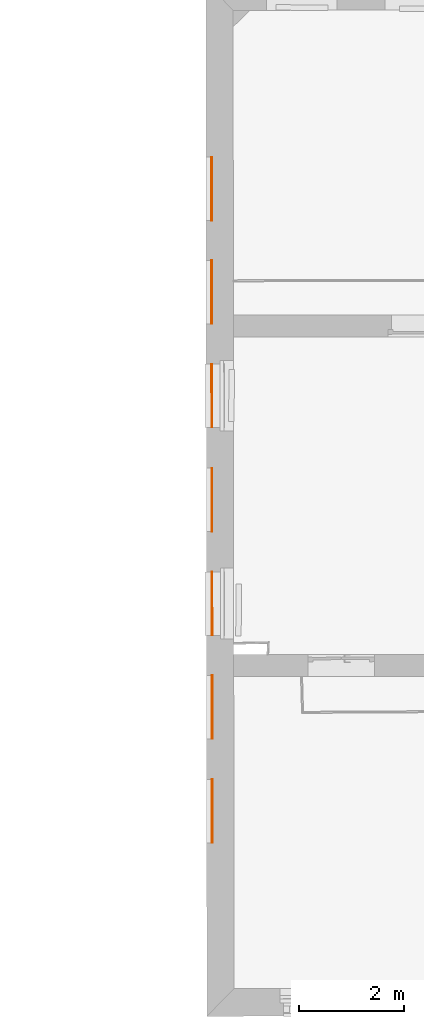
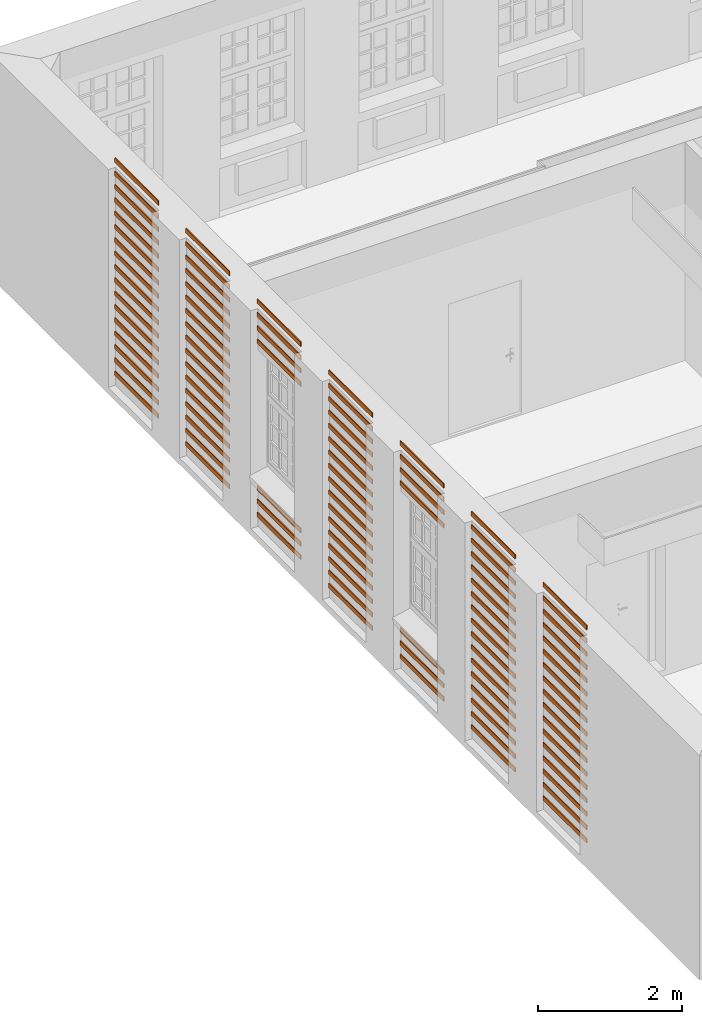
# One storey, part 138 of 158: 99 proxies.
"""IFC2X3 building model written with IfcOpenShell, lengths in metres."""

import ifcopenshell
import ifcopenshell.guid

model = None  # the IFC model being written
_history = None  # IfcOwnerHistory: only IFC2X3 demands one
_inside = {}  # id of a spatial element -> (the spatial element, [elements in it])
_under = {}  # id of a project, library or spatial element -> (it, [spatial elements below it])
_declared = {}  # id of a project -> (the project, [libraries it declares])
_typed = {}  # id of a type object -> (the type object, [elements of that type])
_made_of = {}  # id of a material, layer set ... -> (it, [elements and type objects made of it])


def new_model(schema):
    """Start an empty IFC model of exactly this schema.

    Asked for "IFC4X3", IfcOpenShell would pick the latest addendum, in which some entities
    have other attributes; the version numbers below select the first issue.
    IFC2X3 requires an IfcOwnerHistory on every rooted entity: one is made here for all.
    """
    global model, _history
    if schema == "IFC4X3":
        model = ifcopenshell.file(schema_version=(4, 3, 0, 0))
    else:
        model = ifcopenshell.file(schema=schema)
    _inside.clear()
    _under.clear()
    _declared.clear()
    _typed.clear()
    _made_of.clear()
    _history = None
    if model.schema == "IFC2X3":
        org = make("IfcOrganization", Name="unknown")
        user = make(
            "IfcPersonAndOrganization",
            ThePerson=make("IfcPerson", FamilyName="unknown"),
            TheOrganization=org,
        )
        app = make(
            "IfcApplication",
            ApplicationDeveloper=org,
            Version="unknown",
            ApplicationFullName="unknown",
            ApplicationIdentifier="unknown",
        )
        _history = make(
            "IfcOwnerHistory",
            OwningUser=user,
            OwningApplication=app,
            ChangeAction="ADDED",
            CreationDate=0,
        )
    return model


def make(cls, **values):
    """One entity of the class cls with the attributes given. An attribute that is None is left unset."""
    return model.create_entity(
        cls, **{name: value for name, value in values.items() if value is not None}
    )


def entity(cls, *values):
    """Any entity or typed value of the class cls, its attributes in the order of the schema. None: left unset."""
    e = model.create_entity(cls)
    for i, value in enumerate(values):
        if value is not None:
            e[i] = value
    return e


def rooted(cls, **values):
    """An entity with a GlobalId (a new one), such as an element, a storey or a relation."""
    return make(cls, GlobalId=ifcopenshell.guid.new(), OwnerHistory=_history, **values)


def si_unit(unit_type, name, prefix=None):
    """IfcSIUnit, for example si_unit("LENGTHUNIT", "METRE", prefix="MILLI")."""
    return make("IfcSIUnit", UnitType=unit_type, Prefix=prefix, Name=name)


def converted_unit(unit_type, name, factor, base, dimensions=None, offset=None):
    """IfcConversionBasedUnit, such as the inch: factor (a typed value) times the base unit."""
    return make(
        "IfcConversionBasedUnit"
        if offset is None
        else "IfcConversionBasedUnitWithOffset",
        ConversionOffset=offset,
        Dimensions=None
        if dimensions is None
        else entity("IfcDimensionalExponents", *dimensions),
        UnitType=unit_type,
        Name=name,
        ConversionFactor=make(
            "IfcMeasureWithUnit", ValueComponent=factor, UnitComponent=base
        ),
    )


def derived_unit(unit_type, elements):
    """IfcDerivedUnit: a product of units, each with its exponent."""
    return make(
        "IfcDerivedUnit",
        Elements=[
            make("IfcDerivedUnitElement", Unit=unit, Exponent=power)
            for unit, power in elements
        ],
        UnitType=unit_type,
    )


def money_unit(currency):
    """IfcMonetaryUnit."""
    return make("IfcMonetaryUnit", Currency=currency)


def assignment(units):
    """IfcUnitAssignment: the units of a project."""
    return None if units is None else make("IfcUnitAssignment", Units=units)


def point(xyz):
    """IfcCartesianPoint."""
    return None if xyz is None else make("IfcCartesianPoint", Coordinates=xyz)


def direction(xyz):
    """IfcDirection."""
    return None if xyz is None else make("IfcDirection", DirectionRatios=xyz)


def frame(location, z_axis=None, x_axis=None):
    """IfcAxis2Placement3D, a coordinate frame: its origin and axes. An axis left out is left unset."""
    return make(
        "IfcAxis2Placement3D",
        Location=point(location),
        Axis=direction(z_axis),
        RefDirection=direction(x_axis),
    )


def origin_with_axes():
    """The frame at (0, 0, 0) with the z axis (0, 0, 1) and the x axis (1, 0, 0) written out."""
    return frame((0.0, 0.0, 0.0), z_axis=(0.0, 0.0, 1.0), x_axis=(1.0, 0.0, 0.0))


def place(relative_to, where):
    """IfcLocalPlacement: puts the frame where relative to a parent placement (None: the world)."""
    return make(
        "IfcLocalPlacement", PlacementRelTo=relative_to, RelativePlacement=where
    )


def context(
    kind, dimensions, precision=None, world=None, true_north=None, identifier=None
):
    """IfcGeometricRepresentationContext, for example the 3D "Model" context."""
    return make(
        "IfcGeometricRepresentationContext",
        ContextIdentifier=identifier,
        ContextType=kind,
        CoordinateSpaceDimension=dimensions,
        Precision=precision,
        WorldCoordinateSystem=world,
        TrueNorth=true_north,
    )


def subcontext(parent, identifier, kind, view, scale=None):
    """IfcGeometricRepresentationSubContext, for example "Body" below "Model"."""
    return make(
        "IfcGeometricRepresentationSubContext",
        ContextIdentifier=identifier,
        ContextType=kind,
        ParentContext=parent,
        TargetScale=scale,
        TargetView=view,
    )


def project(units=None, contexts=None):
    """IfcProject with its units and contexts."""
    return rooted(
        "IfcProject",
        Name="project",
        RepresentationContexts=contexts,
        UnitsInContext=assignment(units),
    )


def spatial(cls, under=None, at=None, **own):
    """A site, building, storey or space (cls), placed at a placement, below another one or the project."""
    s = rooted(cls, ObjectPlacement=at, **own)
    if under is not None:
        _under.setdefault(under.id(), (under, []))[1].append(s)
    return s


def faces_of(points, faces, orient=None, outer=None):
    """IfcFace entities. A face is a list of loops; a loop is a list of indices into points, from 0.

    orient and outer hold one flag for each loop. By default every Orientation is true, the
    first loop of a face is its IfcFaceOuterBound and the others are IfcFaceBound.
    """
    made = []
    for i, loops in enumerate(faces):
        bounds = []
        for j, loop in enumerate(loops):
            is_outer = j == 0 if outer is None else outer[i][j]
            bounds.append(
                make(
                    "IfcFaceOuterBound" if is_outer else "IfcFaceBound",
                    Bound=make("IfcPolyLoop", Polygon=[points[k] for k in loop]),
                    Orientation=True if orient is None else orient[i][j],
                )
            )
        made.append(make("IfcFace", Bounds=bounds))
    return made


def faceted_brep(points, faces, orient=None, outer=None, voids=None):
    """IfcFacetedBrep: a solid bounded by flat faces; with voids (closed shells), ...WithVoids."""
    shared = [point(p) for p in points]
    hull = make("IfcClosedShell", CfsFaces=faces_of(shared, faces, orient, outer))
    if voids is None:
        return make("IfcFacetedBrep", Outer=hull)
    return make(
        "IfcFacetedBrepWithVoids",
        Outer=hull,
        Voids=[
            make(cls, CfsFaces=faces_of(shared, fs, o, b)) for cls, fs, o, b in voids
        ],
    )


def shape(context_of_items, identifier, shape_type, items):
    """IfcShapeRepresentation: the items that make up one representation, for example the "Body"."""
    return make(
        "IfcShapeRepresentation",
        ContextOfItems=context_of_items,
        RepresentationIdentifier=identifier,
        RepresentationType=shape_type,
        Items=items,
    )


def source(mapping_origin, context_of_items, identifier, shape_type, items):
    """IfcRepresentationMap: a shape defined once, which mapped items show again and again."""
    return make(
        "IfcRepresentationMap",
        MappingOrigin=mapping_origin,
        MappedRepresentation=shape(context_of_items, identifier, shape_type, items),
    )


def transform(
    local_origin,
    x_axis=None,
    y_axis=None,
    z_axis=None,
    scale=None,
    scale2=None,
    scale3=None,
    uniform=True,
):
    """IfcCartesianTransformationOperator3D, or its non-uniform kind. x_axis, y_axis, z_axis: its Axis1, 2, 3."""
    if uniform:
        return make(
            "IfcCartesianTransformationOperator3D",
            Axis1=direction(x_axis),
            Axis2=direction(y_axis),
            LocalOrigin=point(local_origin),
            Scale=scale,
            Axis3=direction(z_axis),
        )
    return make(
        "IfcCartesianTransformationOperator3DnonUniform",
        Axis1=direction(x_axis),
        Axis2=direction(y_axis),
        LocalOrigin=point(local_origin),
        Scale=scale,
        Axis3=direction(z_axis),
        Scale2=scale2,
        Scale3=scale3,
    )


def mapped(mapping_source, mapping_target):
    """IfcMappedItem: shows the shape of a source again, moved by a transform."""
    return make(
        "IfcMappedItem", MappingSource=mapping_source, MappingTarget=mapping_target
    )


def material(Name=None, Category=None):
    """IfcMaterial."""
    return make("IfcMaterial", Name=Name, Category=Category)


def made_of(thing, what):
    """Note that an element or type object is made of a material, layer set ...; save() writes the relation."""
    if what is not None:
        _made_of.setdefault(what.id(), (what, []))[1].append(thing)
    return thing


def type_object(cls, material=None, **own):
    """A type object (cls), such as IfcWallType, which elements share."""
    return made_of(rooted(cls, **own), material)


def element(
    cls,
    number,
    at=None,
    inside=None,
    cuts=None,
    type_object=None,
    material=None,
    context=None,
    identifier="Body",
    shape_type=None,
    held_by="IfcProductDefinitionShape",
    body=None,
    shapes=None,
    **own,
):
    """One element of the class cls, such as IfcWall. Its Tag is "e" and its number.

    at: its placement. inside: the storey or other place that contains it. cuts: it is an
    opening in that element (IfcRelVoidsElement). A single representation is given by context,
    identifier, shape_type and body (its items); several are given by shapes. held_by: the class
    of the entity that holds the representations. save() writes the other relations.
    """
    e = rooted(cls, Tag="e%d" % number, ObjectPlacement=at, **own)
    if body is not None:
        shapes = [shape(context, identifier, shape_type, body)]
    if shapes is not None:
        e.Representation = make(held_by, Representations=shapes)
    if inside is not None:
        _inside.setdefault(inside.id(), (inside, []))[1].append(e)
    if cuts is not None:
        rooted(
            "IfcRelVoidsElement", RelatingBuildingElement=cuts, RelatedOpeningElement=e
        )
    if type_object is not None:
        _typed.setdefault(type_object.id(), (type_object, []))[1].append(e)
    return made_of(e, material)


def aggregate(whole, parts):
    """IfcRelAggregates: a whole, such as a stair, and the parts it consists of."""
    return rooted("IfcRelAggregates", RelatingObject=whole, RelatedObjects=parts)


def save(model, path):
    """Write the relations noted so far, then the file.

    IfcRelAggregates (storeys below a building ...), IfcRelContainedInSpatialStructure (elements
    in a storey), IfcRelDefinesByType, IfcRelAssociatesMaterial and IfcRelDeclares: one each for
    every whole, place, type object, material and project.
    """
    for whole, parts in _under.values():
        aggregate(whole, parts)
    for where, things in _inside.values():
        rooted(
            "IfcRelContainedInSpatialStructure",
            RelatedElements=things,
            RelatingStructure=where,
        )
    for kind, things in _typed.values():
        rooted("IfcRelDefinesByType", RelatedObjects=things, RelatingType=kind)
    for what, things in _made_of.values():
        rooted("IfcRelAssociatesMaterial", RelatedObjects=things, RelatingMaterial=what)
    for by, libraries in _declared.values():
        rooted("IfcRelDeclares", RelatingContext=by, RelatedDefinitions=libraries)
    model.write(path)


model = new_model("IFC2X3")

# Units and contexts
model_context = context("Model", 3, precision=1e-05, world=origin_with_axes(), true_north=direction((0.0, 1.0)))
body_context = subcontext(model_context, "Body", "Model", "MODEL_VIEW")
ifc_project = project(units=[si_unit("LENGTHUNIT", "METRE"), si_unit("AREAUNIT", "SQUARE_METRE"), si_unit("VOLUMEUNIT", "CUBIC_METRE"), converted_unit("PLANEANGLEUNIT", "DEGREE", entity("IfcPlaneAngleMeasure", 0.0174532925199), si_unit("PLANEANGLEUNIT", "RADIAN"), dimensions=[0, 0, 0, 0, 0, 0, 0]), money_unit("EUR"), converted_unit("TIMEUNIT", "Year", entity("IfcTimeMeasure", 31556926.0), si_unit("TIMEUNIT", "SECOND"), dimensions=[0, 0, 1, 0, 0, 0, 0]), si_unit("MASSUNIT", "GRAM", prefix="KILO"), si_unit("THERMODYNAMICTEMPERATUREUNIT", "DEGREE_CELSIUS"), si_unit("LUMINOUSINTENSITYUNIT", "LUMEN"), si_unit("ENERGYUNIT", "JOULE", prefix="MEGA"), derived_unit("THERMALCONDUCTANCEUNIT", [(si_unit("POWERUNIT", "WATT"), 1), (si_unit("LENGTHUNIT", "METRE"), -1), (si_unit("THERMODYNAMICTEMPERATUREUNIT", "KELVIN"), -1)]), derived_unit("SPECIFICHEATCAPACITYUNIT", [(si_unit("ENERGYUNIT", "JOULE"), 1), (si_unit("MASSUNIT", "GRAM", prefix="KILO"), -1), (si_unit("THERMODYNAMICTEMPERATUREUNIT", "KELVIN"), -1)]), derived_unit("MASSDENSITYUNIT", [(si_unit("MASSUNIT", "GRAM", prefix="KILO"), 1), (si_unit("VOLUMEUNIT", "CUBIC_METRE"), -1)])], contexts=[model_context])

# Site, building, storey
site_placement = place(None, origin_with_axes())
site = spatial("IfcSite", under=ifc_project, at=site_placement, Name="Gelände", CompositionType="ELEMENT")
building_placement = place(site_placement, origin_with_axes())
building = spatial("IfcBuilding", under=site, at=building_placement, Name="Gebäude", CompositionType="ELEMENT")
storey_placement = place(building_placement, origin_with_axes())
storey = spatial("IfcBuildingStorey", under=building, at=storey_placement, Name="ERDGESCHOSS", CompositionType="ELEMENT", Elevation=0.0)

# Proxies
ifc_material = material(Name="05_ALLGEMEIN - TRAGENDE BAUTEILE")
building_element_proxy_type = type_object("IfcBuildingElementProxyType", Name="05_ALLGEMEIN - TRAGENDE BAUTEILE", PredefinedType="NOTDEFINED")
shared_shape = source(origin_with_axes(), body_context, "Body", "Brep", [
    faceted_brep([(0.1, 0.000107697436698, 0.0), (0.1, -1.21189177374, 0.0), (0.1, -1.21189177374, 0.0752085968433), (0.1, 0.000107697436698, 0.0752085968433), (0.115288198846, 0.000107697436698, 0.0), (0.115288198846, -1.21189177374, 0.0), (0.115288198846, -1.21189177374, 0.0752085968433), (0.115288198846, 0.000107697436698, 0.0752085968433)], [[[0, 1, 2, 3]], [[1, 0, 4, 5]], [[2, 1, 5, 6]], [[7, 3, 2, 6]], [[0, 3, 7, 4]], [[5, 4, 7, 6]]]),
])
for number, where, z_axis, x_axis, name in (
    (1, (-28.0637549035, 20.7114160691, 2.55919115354), (0.0, 0.0, 1.0), (0.999999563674, 0.000934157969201, 0.0), "Morph-316"),
    (2, (-28.0581926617, 14.7571346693, 0.0686203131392), (0.0, 0.0, 1.0), (0.999999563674, 0.000934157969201, 0.0), "Morph-316"),
    (3, (-28.0581926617, 14.7571346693, 0.521451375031), (0.0, 0.0, 1.0), (0.999999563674, 0.000934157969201, 0.0), "Morph-316"),
    (4, (-28.0581926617, 14.7571346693, 3.01202221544), (0.0, 0.0, 1.0), (0.999999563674, 0.000934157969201, 0.0), "Morph-316"),
    (5, (-28.0581926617, 14.7571346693, 3.23843774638), (0.0, 0.0, 1.0), (0.999999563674, 0.000934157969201, 0.0), "Morph-316"),
    (6, (-28.0544854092, 10.7885865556, 0.0686203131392), (0.0, 0.0, 1.0), (0.999999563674, 0.000934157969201, 0.0), "Morph-316"),
    (7, (-28.0544854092, 10.7885865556, 0.295035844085), (0.0, 0.0, 1.0), (0.999999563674, 0.000934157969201, 0.0), "Morph-316"),
    (8, (-28.0544854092, 10.7885865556, 0.747866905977), (0.0, 0.0, 1.0), (0.999999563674, 0.000934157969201, 0.0), "Morph-316"),
    (9, (-28.0544854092, 10.7885865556, 0.974282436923), (0.0, 0.0, 1.0), (0.999999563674, 0.000934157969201, 0.0), "Morph-316"),
    (10, (-28.0544854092, 10.7885865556, 1.42711349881), (0.0, 0.0, 1.0), (0.999999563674, 0.000934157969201, 0.0), "Morph-316"),
    (11, (-28.0637549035, 20.7114160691, 2.10636009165), (0.0, 0.0, 1.0), (0.999999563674, 0.000934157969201, 0.0), "Morph-316"),
    (12, (-28.0637549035, 20.7114160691, 1.87994456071), (0.0, 0.0, 1.0), (0.999999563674, 0.000934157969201, 0.0), "Morph-316"),
    (13, (-28.0600451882, 16.7402315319, 2.78560668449), (0.0, 0.0, 1.0), (0.999999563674, 0.000934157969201, 0.0), "Morph-316"),
    (14, (-28.0600451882, 16.7402315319, 2.3327756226), (0.0, 0.0, 1.0), (0.999999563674, 0.000934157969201, 0.0), "Morph-316"),
    (15, (-28.0600451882, 16.7402315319, 1.87994456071), (0.0, 0.0, 1.0), (0.999999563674, 0.000934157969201, 0.0), "Morph-316"),
    (16, (-28.0600451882, 16.7402315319, 1.42711349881), (0.0, 0.0, 1.0), (0.999999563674, 0.000934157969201, 0.0), "Morph-316"),
    (17, (-28.0600451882, 16.7402315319, 0.974282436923), (0.0, 0.0, 1.0), (0.999999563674, 0.000934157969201, 0.0), "Morph-316"),
    (18, (-28.0600451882, 16.7402315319, 0.521451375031), (0.0, 0.0, 1.0), (0.999999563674, 0.000934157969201, 0.0), "Morph-316"),
    (19, (-28.0563426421, 12.7767214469, 0.0686203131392), (0.0, 0.0, 1.0), (0.999999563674, 0.000934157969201, 0.0), "Morph-316"),
    (20, (-28.0563426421, 12.7767214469, 0.295035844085), (0.0, 0.0, 1.0), (0.999999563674, 0.000934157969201, 0.0), "Morph-316"),
    (21, (-28.0600451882, 16.7402315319, 0.295035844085), (0.0, 0.0, 1.0), (0.999999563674, 0.000934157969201, 0.0), "Morph-316"),
    (22, (-28.0563426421, 12.7767214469, 1.20069796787), (0.0, 0.0, 1.0), (0.999999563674, 0.000934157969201, 0.0), "Morph-316"),
    (23, (-28.0563426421, 12.7767214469, 1.42711349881), (0.0, 0.0, 1.0), (0.999999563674, 0.000934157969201, 0.0), "Morph-316"),
    (24, (-28.0563426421, 12.7767214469, 1.65352902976), (0.0, 0.0, 1.0), (0.999999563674, 0.000934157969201, 0.0), "Morph-316"),
    (25, (-28.0563426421, 12.7767214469, 1.87994456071), (0.0, 0.0, 1.0), (0.999999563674, 0.000934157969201, 0.0), "Morph-316"),
    (26, (-28.0563426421, 12.7767214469, 2.10636009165), (0.0, 0.0, 1.0), (0.999999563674, 0.000934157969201, 0.0), "Morph-316"),
    (27, (-28.0563426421, 12.7767214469, 2.3327756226), (0.0, 0.0, 1.0), (0.999999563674, 0.000934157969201, 0.0), "Morph-316"),
    (28, (-28.0563426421, 12.7767214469, 2.55919115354), (0.0, 0.0, 1.0), (0.999999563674, 0.000934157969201, 0.0), "Morph-316"),
    (29, (-28.0563426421, 12.7767214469, 2.78560668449), (0.0, 0.0, 1.0), (0.999999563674, 0.000934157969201, 0.0), "Morph-316"),
    (30, (-28.0563426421, 12.7767214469, 3.01202221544), (0.0, 0.0, 1.0), (0.999999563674, 0.000934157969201, 0.0), "Morph-316"),
    (31, (-28.0563426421, 12.7767214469, 3.23843774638), (0.0, 0.0, 1.0), (0.999999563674, 0.000934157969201, 0.0), "Morph-316"),
    (32, (-28.0563426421, 12.7767214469, 3.46485327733), (0.0, 0.0, 1.0), (0.999999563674, 0.000934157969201, 0.0), "Morph-316"),
    (33, (-28.0563426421, 12.7767214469, 3.69126880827), (0.0, 0.0, 1.0), (0.999999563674, 0.000934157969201, 0.0), "Morph-316"),
    (34, (-28.0619039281, 18.7299796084, 3.46485327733), (0.0, 0.0, 1.0), (0.999999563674, 0.000934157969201, 0.0), "Morph-316"),
    (35, (-28.0619039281, 18.7299796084, 0.0686203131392), (0.0, 0.0, 1.0), (0.999999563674, 0.000934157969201, 0.0), "Morph-316"),
    (36, (-28.0656002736, 22.6868520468, 0.295035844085), (0.0, 0.0, 1.0), (0.999999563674, 0.000934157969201, 0.0), "Morph-316"),
    (37, (-28.0656002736, 22.6868520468, 1.20069796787), (0.0, 0.0, 1.0), (0.999999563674, 0.000934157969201, 0.0), "Morph-316"),
    (38, (-28.0637549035, 20.7114160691, 0.0686203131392), (0.0, 0.0, 1.0), (0.999999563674, 0.000934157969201, 0.0), "Morph-316"),
    (39, (-28.0637549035, 20.7114160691, 0.521451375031), (0.0, 0.0, 1.0), (0.999999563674, 0.000934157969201, 0.0), "Morph-316"),
    (40, (-28.0637549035, 20.7114160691, 0.974282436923), (0.0, 0.0, 1.0), (0.999999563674, 0.000934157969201, 0.0), "Morph-316"),
    (41, (-28.0637549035, 20.7114160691, 1.42711349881), (0.0, 0.0, 1.0), (0.999999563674, 0.000934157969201, 0.0), "Morph-316"),
    (42, (-28.0581926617, 14.7571346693, 3.46485327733), (0.0, 0.0, 1.0), (0.999999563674, 0.000934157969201, 0.0), "Morph-316"),
    (43, (-28.0544854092, 10.7885865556, 1.20069796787), (0.0, 0.0, 1.0), (0.999999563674, 0.000934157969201, 0.0), "Morph-316"),
    (44, (-28.0563426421, 12.7767214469, 0.521451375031), (0.0, 0.0, 1.0), (0.999999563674, 0.000934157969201, 0.0), "Morph-316"),
    (45, (-28.0563426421, 12.7767214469, 0.974282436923), (0.0, 0.0, 1.0), (0.999999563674, 0.000934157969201, 0.0), "Morph-316"),
    (46, (-28.0619039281, 18.7299796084, 3.69126880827), (0.0, 0.0, 1.0), (0.999999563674, 0.000934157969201, 0.0), "Morph-316"),
    (47, (-28.0619039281, 18.7299796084, 3.01202221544), (0.0, 0.0, 1.0), (0.999999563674, 0.000934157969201, 0.0), "Morph-316"),
    (48, (-28.0544854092, 10.7885865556, 3.23843774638), (0.0, 0.0, 1.0), (0.999999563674, 0.000934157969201, 0.0), "Morph-316"),
    (49, (-28.0656002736, 22.6868520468, 2.3327756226), (0.0, 0.0, 1.0), (0.999999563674, 0.000934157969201, 0.0), "Morph-316"),
    (50, (-28.0656002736, 22.6868520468, 3.69126880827), (0.0, 0.0, 1.0), (0.999999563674, 0.000934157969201, 0.0), "Morph-316"),
    (51, (-28.0656002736, 22.6868520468, 3.46485327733), (0.0, 0.0, 1.0), (0.999999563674, 0.000934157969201, 0.0), "Morph-316"),
    (52, (-28.0656002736, 22.6868520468, 3.01202221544), (0.0, 0.0, 1.0), (0.999999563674, 0.000934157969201, 0.0), "Morph-316"),
    (53, (-28.0656002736, 22.6868520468, 2.55919115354), (0.0, 0.0, 1.0), (0.999999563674, 0.000934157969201, 0.0), "Morph-316"),
    (54, (-28.0656002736, 22.6868520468, 2.10636009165), (0.0, 0.0, 1.0), (0.999999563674, 0.000934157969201, 0.0), "Morph-316"),
    (55, (-28.0656002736, 22.6868520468, 1.65352902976), (0.0, 0.0, 1.0), (0.999999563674, 0.000934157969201, 0.0), "Morph-316"),
    (56, (-28.0656002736, 22.6868520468, 1.42711349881), (0.0, 0.0, 1.0), (0.999999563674, 0.000934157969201, 0.0), "Morph-316"),
    (57, (-28.0600451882, 16.7402315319, 3.01202221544), (0.0, 0.0, 1.0), (0.999999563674, 0.000934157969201, 0.0), "Morph-316"),
    (58, (-28.0656002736, 22.6868520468, 0.974282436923), (0.0, 0.0, 1.0), (0.999999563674, 0.000934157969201, 0.0), "Morph-316"),
    (59, (-28.0656002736, 22.6868520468, 0.747866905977), (0.0, 0.0, 1.0), (0.999999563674, 0.000934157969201, 0.0), "Morph-316"),
    (60, (-28.0656002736, 22.6868520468, 0.521451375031), (0.0, 0.0, 1.0), (0.999999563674, 0.000934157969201, 0.0), "Morph-316"),
    (61, (-28.0656002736, 22.6868520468, 0.0686203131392), (0.0, 0.0, 1.0), (0.999999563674, 0.000934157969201, 0.0), "Morph-316"),
    (62, (-28.0656002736, 22.6868520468, 2.78560668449), (0.0, 0.0, 1.0), (0.999999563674, 0.000934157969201, 0.0), "Morph-316"),
    (63, (-28.0581926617, 14.7571346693, 3.69126880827), (0.0, 0.0, 1.0), (0.999999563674, 0.000934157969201, 0.0), "Morph-316"),
    (64, (-28.0544854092, 10.7885865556, 1.65352902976), (0.0, 0.0, 1.0), (0.999999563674, 0.000934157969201, 0.0), "Morph-316"),
    (65, (-28.0544854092, 10.7885865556, 2.78560668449), (0.0, 0.0, 1.0), (0.999999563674, 0.000934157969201, 0.0), "Morph-316"),
    (66, (-28.0637549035, 20.7114160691, 1.65352902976), (0.0, 0.0, 1.0), (0.999999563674, 0.000934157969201, 0.0), "Morph-316"),
    (67, (-28.0637549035, 20.7114160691, 1.20069796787), (0.0, 0.0, 1.0), (0.999999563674, 0.000934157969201, 0.0), "Morph-316"),
    (68, (-28.0619039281, 18.7299796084, 3.23843774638), (0.0, 0.0, 1.0), (0.999999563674, 0.000934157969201, 0.0), "Morph-316"),
    (69, (-28.0600451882, 16.7402315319, 0.747866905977), (0.0, 0.0, 1.0), (0.999999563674, 0.000934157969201, 0.0), "Morph-316"),
    (70, (-28.0600451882, 16.7402315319, 2.55919115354), (0.0, 0.0, 1.0), (0.999999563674, 0.000934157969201, 0.0), "Morph-316"),
    (71, (-28.0637549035, 20.7114160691, 2.78560668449), (0.0, 0.0, 1.0), (0.999999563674, 0.000934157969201, 0.0), "Morph-316"),
    (72, (-28.0637549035, 20.7114160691, 3.69126880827), (0.0, 0.0, 1.0), (0.999999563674, 0.000934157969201, 0.0), "Morph-316"),
    (73, (-28.0600451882, 16.7402315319, 3.23843774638), (0.0, 0.0, 1.0), (0.999999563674, 0.000934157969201, 0.0), "Morph-316"),
    (74, (-28.0544854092, 10.7885865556, 1.87994456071), (0.0, 0.0, 1.0), (0.999999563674, 0.000934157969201, 0.0), "Morph-316"),
    (75, (-28.0544854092, 10.7885865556, 2.55919115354), (0.0, 0.0, 1.0), (0.999999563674, 0.000934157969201, 0.0), "Morph-316"),
    (76, (-28.0619039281, 18.7299796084, 0.521451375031), (0.0, 0.0, 1.0), (0.999999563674, 0.000934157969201, 0.0), "Morph-316"),
    (77, (-28.0600451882, 16.7402315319, 1.65352902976), (0.0, 0.0, 1.0), (0.999999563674, 0.000934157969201, 0.0), "Morph-316"),
    (78, (-28.0637549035, 20.7114160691, 0.295035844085), (0.0, 0.0, 1.0), (0.999999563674, 0.000934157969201, 0.0), "Morph-316"),
    (79, (-28.0563426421, 12.7767214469, 0.747866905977), (0.0, 0.0, 1.0), (0.999999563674, 0.000934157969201, 0.0), "Morph-316"),
    (80, (-28.0637549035, 20.7114160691, 2.3327756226), (0.0, 0.0, 1.0), (0.999999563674, 0.000934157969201, 0.0), "Morph-316"),
    (81, (-28.0600451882, 16.7402315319, 1.20069796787), (0.0, 0.0, 1.0), (0.999999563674, 0.000934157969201, 0.0), "Morph-316"),
    (82, (-28.0656002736, 22.6868520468, 3.23843774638), (0.0, 0.0, 1.0), (0.999999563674, 0.000934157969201, 0.0), "Morph-316"),
    (83, (-28.0544854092, 10.7885865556, 0.521451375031), (0.0, 0.0, 1.0), (0.999999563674, 0.000934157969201, 0.0), "Morph-316"),
    (84, (-28.0637549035, 20.7114160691, 3.46485327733), (0.0, 0.0, 1.0), (0.999999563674, 0.000934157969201, 0.0), "Morph-316"),
    (85, (-28.0600451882, 16.7402315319, 2.10636009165), (0.0, 0.0, 1.0), (0.999999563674, 0.000934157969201, 0.0), "Morph-316"),
    (86, (-28.0600451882, 16.7402315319, 0.0686203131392), (0.0, 0.0, 1.0), (0.999999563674, 0.000934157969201, 0.0), "Morph-316"),
    (87, (-28.0619039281, 18.7299796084, 0.295035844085), (0.0, 0.0, 1.0), (0.999999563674, 0.000934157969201, 0.0), "Morph-316"),
    (88, (-28.0637549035, 20.7114160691, 0.747866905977), (0.0, 0.0, 1.0), (0.999999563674, 0.000934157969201, 0.0), "Morph-316"),
    (89, (-28.0656002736, 22.6868520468, 1.87994456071), (0.0, 0.0, 1.0), (0.999999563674, 0.000934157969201, 0.0), "Morph-316"),
    (90, (-28.0544854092, 10.7885865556, 3.69126880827), (0.0, 0.0, 1.0), (0.999999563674, 0.000934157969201, 0.0), "Morph-316"),
    (91, (-28.0544854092, 10.7885865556, 3.46485327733), (0.0, 0.0, 1.0), (0.999999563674, 0.000934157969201, 0.0), "Morph-316"),
    (92, (-28.0544854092, 10.7885865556, 3.01202221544), (0.0, 0.0, 1.0), (0.999999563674, 0.000934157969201, 0.0), "Morph-316"),
    (93, (-28.0544854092, 10.7885865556, 2.3327756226), (0.0, 0.0, 1.0), (0.999999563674, 0.000934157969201, 0.0), "Morph-316"),
    (94, (-28.0544854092, 10.7885865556, 2.10636009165), (0.0, 0.0, 1.0), (0.999999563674, 0.000934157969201, 0.0), "Morph-316"),
    (95, (-28.0581926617, 14.7571346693, 0.295035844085), (0.0, 0.0, 1.0), (0.999999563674, 0.000934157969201, 0.0), "Morph-316"),
    (96, (-28.0600451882, 16.7402315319, 3.69126880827), (0.0, 0.0, 1.0), (0.999999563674, 0.000934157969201, 0.0), "Morph-316"),
    (97, (-28.0600451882, 16.7402315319, 3.46485327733), (0.0, 0.0, 1.0), (0.999999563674, 0.000934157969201, 0.0), "Morph-316"),
    (98, (-28.0637549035, 20.7114160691, 3.23843774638), (0.0, 0.0, 1.0), (0.999999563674, 0.000934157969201, 0.0), "Morph-316"),
    (99, (-28.0637549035, 20.7114160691, 3.01202221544), (0.0, 0.0, 1.0), (0.999999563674, 0.000934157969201, 0.0), "Morph-316"),
):
    element("IfcBuildingElementProxy", number, at=place(storey_placement, frame(where, z_axis=z_axis, x_axis=x_axis)), inside=storey, type_object=building_element_proxy_type, material=ifc_material, Name=name, context=body_context, shape_type="MappedRepresentation", body=[
        mapped(shared_shape, transform((0.0, 0.0, 0.0))),
    ])

save(model, "model.ifc")
